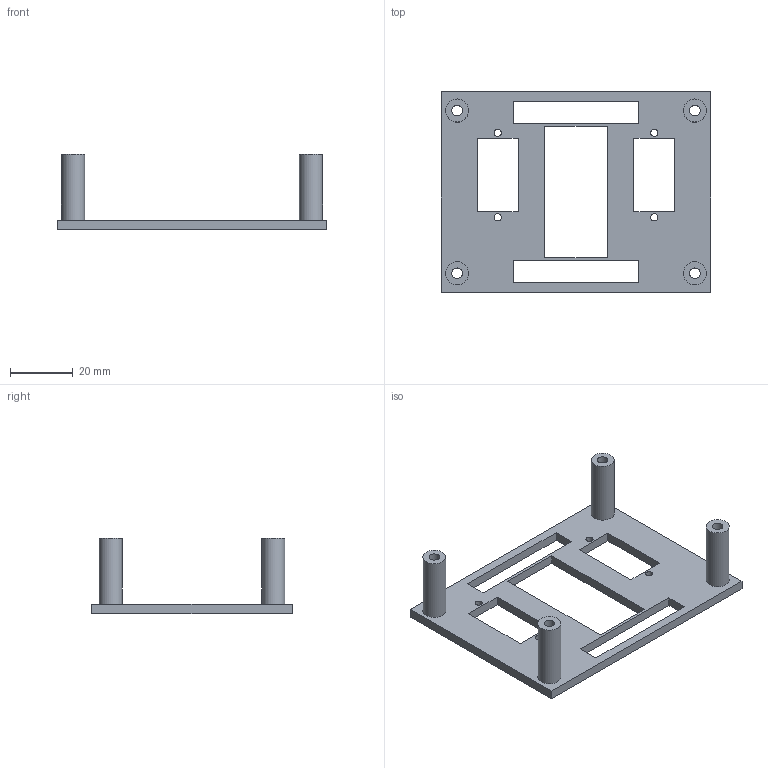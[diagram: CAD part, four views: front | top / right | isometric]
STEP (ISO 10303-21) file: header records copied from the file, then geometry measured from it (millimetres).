
FILE_DESCRIPTION(('Open CASCADE Model'),'2;1');
FILE_NAME('Open CASCADE Shape Model','2026-10-26T16:15:18',('Author'),( 'Open CASCADE'),'Open CASCADE STEP processor 7.8','Open CASCADE 7.8' ,'Unknown');
FILE_SCHEMA(('AUTOMOTIVE_DESIGN { 1 0 10303 214 1 1 1 1 }'));
Length unit declared in the file: millimetre
Products named in the file (1): Open CASCADE STEP translator 7.8 1
Bounding box: 86 x 64 x 24 mm (x, y, z)
Volume: 13178 mm3; surface area: 12223.1 mm2
Topology: 1 solids, 1 shells, 42 faces, 108 edges, 72 vertices
Faces by surface type: plane 30, cylinder 12
Full cylindrical faces by diameter (mm): 2.3 x4, 3.4 x4, 7.4 x4
Entity records: 2682 total; most frequent: CARTESIAN_POINT 499, DIRECTION 374, ORIENTED_EDGE 216, LINE 216, VECTOR 216, PCURVE 216, DEFINITIONAL_REPRESENTATION 216, EDGE_CURVE 108
